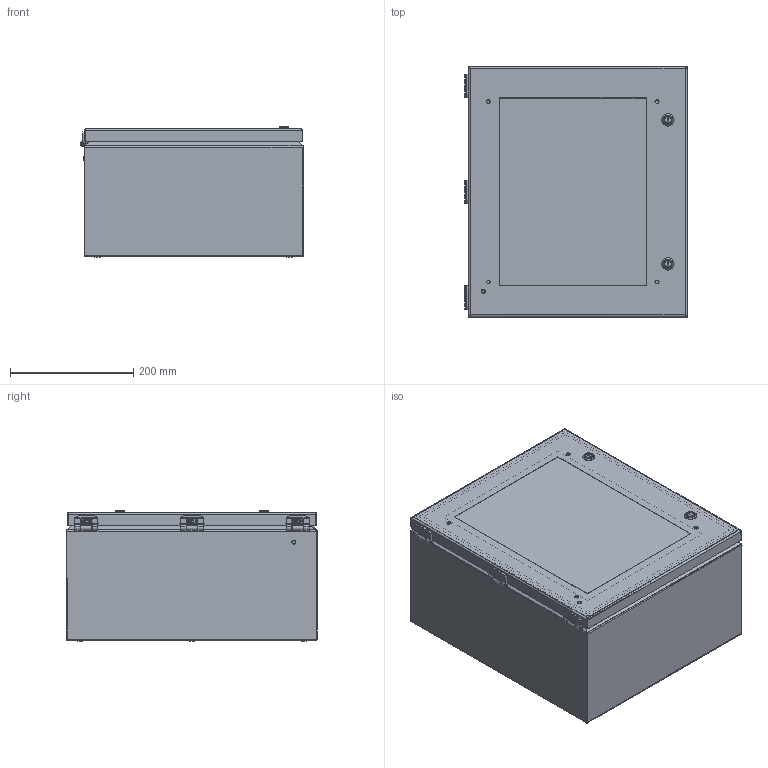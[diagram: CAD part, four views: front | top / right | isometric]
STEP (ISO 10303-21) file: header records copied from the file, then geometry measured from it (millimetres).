
FILE_DESCRIPTION((''),'2;1');
FILE_NAME('MODEL-059_ASM','2021-06-01T10:11:19',('mikek'),('SAGINAW CONTROL & ENGINEERING'),'CREO PARAMETRIC BY PTC INC, 2017260','CREO PARAMETRIC BY PTC INC, 2017260','');
FILE_SCHEMA(('AUTOMOTIVE_DESIGN { 1 0 10303 214 1 1 1 1 }'));
Length unit declared in the file: inch
Products named in the file (29): MODEL-059-BDY; MODEL-059-DR; 112643-BOX-LEAF; 112643-BOX-LEAF-STUD; 112643-BOX_ASM; 112643-DOOR-LEAF; 112643-DOOR-LEAF-STUD; 112643-DOOR_ASM; 112643-PIN; 112643_ASM; 113152; 100097; 100012; 112987_SHAFT; 112987_INSERT; 112984; 112987_SCREW; 112987_NUT; 112987_ASM; MODEL-059-GSKT; MODEL-059-LEX; 118622; 117899; 118662; 120704; CH-ELJ_SUBPANEL; 102479; CH-ELJ_SUBPANEL-SUBASSEMBLY_ASM; MODEL-059_ASM
Assembly tree (56 placements, depth 4):
  MODEL-059_ASM
    MODEL-059-BDY
    MODEL-059-DR
    112643_ASM  x3
      112643-BOX_ASM
        112643-BOX-LEAF
        112643-BOX-LEAF-STUD
      112643-DOOR_ASM
        112643-DOOR-LEAF
        112643-DOOR-LEAF-STUD
      112643-PIN
    113152  x6
    100097  x2
    100012  x6
    112987_ASM  x2
      112987_SHAFT
      112987_INSERT
      112984
      112987_SCREW
      112987_NUT
    MODEL-059-GSKT
    MODEL-059-LEX
    118622  x4
    117899  x4
    118662  x4
    120704
    CH-ELJ_SUBPANEL-SUBASSEMBLY_ASM
      CH-ELJ_SUBPANEL
      102479  x6
Bounding box: 361.2 x 406.4 x 210.71 mm (x, y, z)
Volume: 1679367.8 mm3; surface area: 1621078.2 mm2
Topology: 64 solids, 67 shells, 4720 faces, 12068 edges, 7416 vertices
Faces by surface type: plane 1619, cylinder 1382, bspline 1276, cone 213, torus 186, sphere 44
Entity records: 110408 total; most frequent: CARTESIAN_POINT 56844, ORIENTED_EDGE 7974, DIRECTION 6878, EDGE_CURVE 3987, PRESENTATION_STYLE_ASSIGNMENT 3547, STYLED_ITEM 3547, CURVE_STYLE 3264, AXIS2_PLACEMENT_3D 2538
